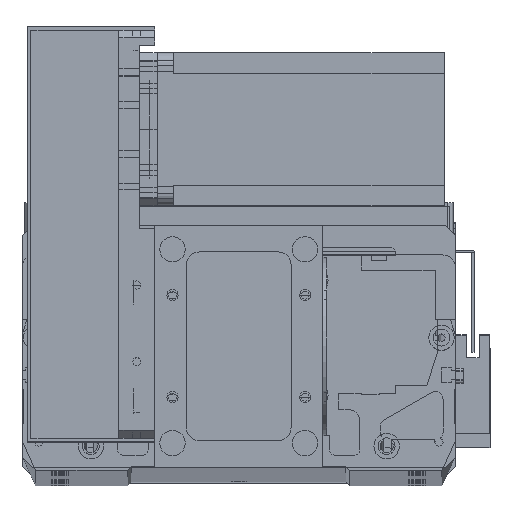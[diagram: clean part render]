
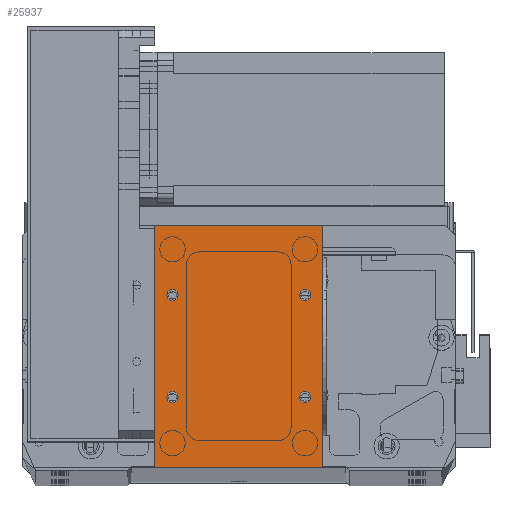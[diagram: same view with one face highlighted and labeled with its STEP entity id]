
A CAD part, top view. The second image highlights one B-rep face of the part: STEP entity #25937.
In plain terms, the highlighted planar face has unit normal (0, 0, 1).
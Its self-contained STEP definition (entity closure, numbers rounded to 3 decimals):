
#25 = DIRECTION ( 'NONE',  ( 0., 1., 0. ) ) ;
#589 = VECTOR ( 'NONE', #25, 1000. ) ;
#1054 = AXIS2_PLACEMENT_3D ( 'NONE', #15016, #34117, #17762 ) ;
#1459 = FACE_BOUND ( 'NONE', #9471, .T. ) ;
#1983 = DIRECTION ( 'NONE',  ( 0., -1., 0. ) ) ;
#2250 = DIRECTION ( 'NONE',  ( 1., 0., 0. ) ) ;
#2574 = DIRECTION ( 'NONE',  ( 0., 0., -1. ) ) ;
#2607 = EDGE_CURVE ( 'NONE', #8117, #28824, #18283, .T. ) ;
#4940 = EDGE_CURVE ( 'NONE', #16772, #24980, #17429, .T. ) ;
#5449 = CIRCLE ( 'NONE', #15233, 2.25 ) ;
#5742 = ORIENTED_EDGE ( 'NONE', *, *, #4940, .F. ) ;
#5929 = CARTESIAN_POINT ( 'NONE',  ( 59., 67.5, 2. ) ) ;
#6210 = EDGE_CURVE ( 'NONE', #15914, #32232, #5449, .T. ) ;
#6884 = EDGE_CURVE ( 'NONE', #7316, #34357, #13104, .T. ) ;
#7047 = CARTESIAN_POINT ( 'NONE',  ( 4.75, 67.5, 2. ) ) ;
#7316 = VERTEX_POINT ( 'NONE', #21376 ) ;
#7693 = ORIENTED_EDGE ( 'NONE', *, *, #24764, .F. ) ;
#7813 = CARTESIAN_POINT ( 'NONE',  ( 61.25, 67.5, 2. ) ) ;
#7870 = CARTESIAN_POINT ( 'NONE',  ( 0., 95., 2. ) ) ;
#8117 = VERTEX_POINT ( 'NONE', #30186 ) ;
#8648 = DIRECTION ( 'NONE',  ( 1., 0., 0. ) ) ;
#9408 = AXIS2_PLACEMENT_3D ( 'NONE', #27027, #2574, #21645 ) ;
#9471 = EDGE_LOOP ( 'NONE', ( #13263, #13794 ) ) ;
#9534 = FACE_OUTER_BOUND ( 'NONE', #35264, .T. ) ;
#9576 = EDGE_CURVE ( 'NONE', #18126, #35067, #21440, .T. ) ;
#10502 = EDGE_CURVE ( 'NONE', #15028, #14574, #14120, .T. ) ;
#11006 = AXIS2_PLACEMENT_3D ( 'NONE', #5929, #25042, #8648 ) ;
#11025 = CARTESIAN_POINT ( 'NONE',  ( 56.75, 27.5, 2. ) ) ;
#11048 = VECTOR ( 'NONE', #30803, 1000. ) ;
#11107 = CARTESIAN_POINT ( 'NONE',  ( 66., 0., 2. ) ) ;
#11687 = DIRECTION ( 'NONE',  ( 0., 0., 1. ) ) ;
#11735 = CARTESIAN_POINT ( 'NONE',  ( 0., 95., 2. ) ) ;
#12041 = CIRCLE ( 'NONE', #25672, 2.25 ) ;
#13085 = CARTESIAN_POINT ( 'NONE',  ( 7., 67.5, 2. ) ) ;
#13104 = CIRCLE ( 'NONE', #13179, 2.25 ) ;
#13179 = AXIS2_PLACEMENT_3D ( 'NONE', #13916, #32998, #16640 ) ;
#13263 = ORIENTED_EDGE ( 'NONE', *, *, #26777, .F. ) ;
#13794 = ORIENTED_EDGE ( 'NONE', *, *, #6210, .F. ) ;
#13916 = CARTESIAN_POINT ( 'NONE',  ( 59., 67.5, 2. ) ) ;
#14097 = CARTESIAN_POINT ( 'NONE',  ( 7., 67.5, 2. ) ) ;
#14120 = LINE ( 'NONE', #11735, #19656 ) ;
#14557 = CARTESIAN_POINT ( 'NONE',  ( 7., 27.5, 2. ) ) ;
#14565 = LINE ( 'NONE', #21028, #28230 ) ;
#14574 = VERTEX_POINT ( 'NONE', #7870 ) ;
#15016 = CARTESIAN_POINT ( 'NONE',  ( 59., 27.5, 2. ) ) ;
#15028 = VERTEX_POINT ( 'NONE', #28658 ) ;
#15233 = AXIS2_PLACEMENT_3D ( 'NONE', #28027, #11687, #30783 ) ;
#15812 = DIRECTION ( 'NONE',  ( 1., 0., 0. ) ) ;
#15914 = VERTEX_POINT ( 'NONE', #35270 ) ;
#16334 = CARTESIAN_POINT ( 'NONE',  ( 66., 0., 2. ) ) ;
#16640 = DIRECTION ( 'NONE',  ( 1., 0., 0. ) ) ;
#16772 = VERTEX_POINT ( 'NONE', #7047 ) ;
#16829 = DIRECTION ( 'NONE',  ( 1., 0., 0. ) ) ;
#17302 = DIRECTION ( 'NONE',  ( 1., 0., 0. ) ) ;
#17429 = CIRCLE ( 'NONE', #32779, 2.25 ) ;
#17642 = FACE_BOUND ( 'NONE', #23307, .T. ) ;
#17762 = DIRECTION ( 'NONE',  ( 1., 0., 0. ) ) ;
#17770 = ORIENTED_EDGE ( 'NONE', *, *, #10502, .T. ) ;
#17869 = AXIS2_PLACEMENT_3D ( 'NONE', #34922, #18568, #2250 ) ;
#18126 = VERTEX_POINT ( 'NONE', #23529 ) ;
#18283 = LINE ( 'NONE', #25311, #11048 ) ;
#18450 = EDGE_CURVE ( 'NONE', #35067, #18126, #31428, .T. ) ;
#18568 = DIRECTION ( 'NONE',  ( 0., 0., 1. ) ) ;
#19119 = EDGE_LOOP ( 'NONE', ( #25780, #21598 ) ) ;
#19656 = VECTOR ( 'NONE', #30957, 1000. ) ;
#19906 = EDGE_CURVE ( 'NONE', #28824, #15028, #23191, .T. ) ;
#20317 = ORIENTED_EDGE ( 'NONE', *, *, #25865, .F. ) ;
#21028 = CARTESIAN_POINT ( 'NONE',  ( 0., 0., 2. ) ) ;
#21066 = AXIS2_PLACEMENT_3D ( 'NONE', #13085, #32181, #15812 ) ;
#21376 = CARTESIAN_POINT ( 'NONE',  ( 56.75, 67.5, 2. ) ) ;
#21440 = CIRCLE ( 'NONE', #17869, 2.25 ) ;
#21598 = ORIENTED_EDGE ( 'NONE', *, *, #18450, .F. ) ;
#21645 = DIRECTION ( 'NONE',  ( -1., 0., 0. ) ) ;
#23191 = LINE ( 'NONE', #16334, #589 ) ;
#23209 = FACE_BOUND ( 'NONE', #19119, .T. ) ;
#23261 = ORIENTED_EDGE ( 'NONE', *, *, #2607, .T. ) ;
#23307 = EDGE_LOOP ( 'NONE', ( #20317, #5742 ) ) ;
#23529 = CARTESIAN_POINT ( 'NONE',  ( 61.25, 27.5, 2. ) ) ;
#24764 = EDGE_CURVE ( 'NONE', #34357, #7316, #28420, .T. ) ;
#24980 = VERTEX_POINT ( 'NONE', #25856 ) ;
#25042 = DIRECTION ( 'NONE',  ( 0., 0., 1. ) ) ;
#25311 = CARTESIAN_POINT ( 'NONE',  ( 0., 0., 2. ) ) ;
#25596 = EDGE_LOOP ( 'NONE', ( #7693, #27471 ) ) ;
#25672 = AXIS2_PLACEMENT_3D ( 'NONE', #14557, #33657, #17302 ) ;
#25780 = ORIENTED_EDGE ( 'NONE', *, *, #9576, .F. ) ;
#25856 = CARTESIAN_POINT ( 'NONE',  ( 9.25, 67.5, 2. ) ) ;
#25865 = EDGE_CURVE ( 'NONE', #24980, #16772, #34740, .T. ) ;
#25937 = ADVANCED_FACE ( 'NONE', ( #17642, #30484, #23209, #1459, #9534 ), #35265, .F. ) ;
#26777 = EDGE_CURVE ( 'NONE', #32232, #15914, #12041, .T. ) ;
#27027 = CARTESIAN_POINT ( 'NONE',  ( 0., 0., 2. ) ) ;
#27471 = ORIENTED_EDGE ( 'NONE', *, *, #6884, .F. ) ;
#28027 = CARTESIAN_POINT ( 'NONE',  ( 7., 27.5, 2. ) ) ;
#28230 = VECTOR ( 'NONE', #1983, 1000. ) ;
#28420 = CIRCLE ( 'NONE', #11006, 2.25 ) ;
#28658 = CARTESIAN_POINT ( 'NONE',  ( 66., 95., 2. ) ) ;
#28824 = VERTEX_POINT ( 'NONE', #11107 ) ;
#30186 = CARTESIAN_POINT ( 'NONE',  ( 0., 0., 2. ) ) ;
#30484 = FACE_BOUND ( 'NONE', #25596, .T. ) ;
#30783 = DIRECTION ( 'NONE',  ( 1., 0., 0. ) ) ;
#30803 = DIRECTION ( 'NONE',  ( 1., 0., 0. ) ) ;
#30957 = DIRECTION ( 'NONE',  ( -1., 0., 0. ) ) ;
#31428 = CIRCLE ( 'NONE', #1054, 2.25 ) ;
#32181 = DIRECTION ( 'NONE',  ( 0., 0., 1. ) ) ;
#32232 = VERTEX_POINT ( 'NONE', #34789 ) ;
#32653 = ORIENTED_EDGE ( 'NONE', *, *, #34864, .T. ) ;
#32779 = AXIS2_PLACEMENT_3D ( 'NONE', #14097, #33191, #16829 ) ;
#32998 = DIRECTION ( 'NONE',  ( 0., 0., 1. ) ) ;
#33191 = DIRECTION ( 'NONE',  ( 0., 0., 1. ) ) ;
#33381 = ORIENTED_EDGE ( 'NONE', *, *, #19906, .T. ) ;
#33657 = DIRECTION ( 'NONE',  ( 0., 0., 1. ) ) ;
#34117 = DIRECTION ( 'NONE',  ( 0., 0., 1. ) ) ;
#34357 = VERTEX_POINT ( 'NONE', #7813 ) ;
#34740 = CIRCLE ( 'NONE', #21066, 2.25 ) ;
#34789 = CARTESIAN_POINT ( 'NONE',  ( 9.25, 27.5, 2. ) ) ;
#34864 = EDGE_CURVE ( 'NONE', #14574, #8117, #14565, .T. ) ;
#34922 = CARTESIAN_POINT ( 'NONE',  ( 59., 27.5, 2. ) ) ;
#35067 = VERTEX_POINT ( 'NONE', #11025 ) ;
#35264 = EDGE_LOOP ( 'NONE', ( #32653, #23261, #33381, #17770 ) ) ;
#35265 = PLANE ( 'NONE',  #9408 ) ;
#35270 = CARTESIAN_POINT ( 'NONE',  ( 4.75, 27.5, 2. ) ) ;
